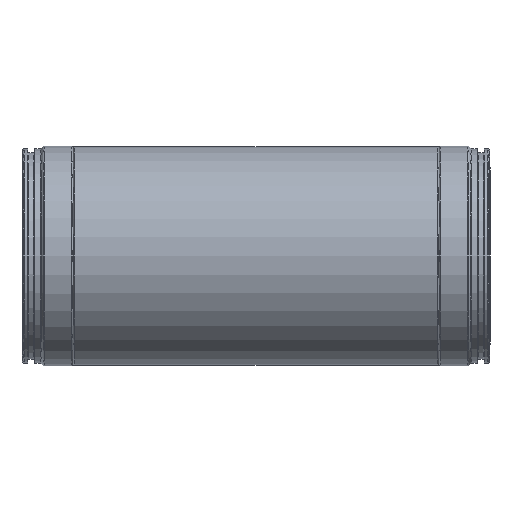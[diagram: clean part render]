
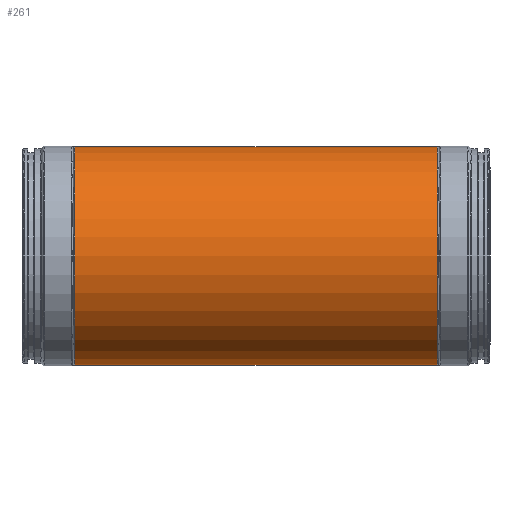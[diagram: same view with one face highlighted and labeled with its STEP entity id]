
A CAD part, left-side view. The second image highlights one B-rep face of the part: STEP entity #261.
In plain terms, the highlighted cylindrical face has radius 79.6 mm (diameter 159.2 mm), a partial arc.
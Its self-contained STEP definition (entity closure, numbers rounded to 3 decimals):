
#180=CARTESIAN_POINT('Vertex',(0.,132.,79.6)) ;
#187=CARTESIAN_POINT('Vertex',(0.,132.,-79.6)) ;
#207=CARTESIAN_POINT('Axis2P3D Location',(0.,132.,0.)) ;
#219=CARTESIAN_POINT('Axis2P3D Location',(0.,0.,0.)) ;
#224=CARTESIAN_POINT('Line Origine',(0.,0.,79.6)) ;
#228=CARTESIAN_POINT('Vertex',(0.,-132.,79.6)) ;
#235=CARTESIAN_POINT('Vertex',(0.,-132.,-79.6)) ;
#238=CARTESIAN_POINT('Line Origine',(0.,0.,-79.6)) ;
#250=CARTESIAN_POINT('Axis2P3D Location',(0.,-132.,0.)) ;
#208=DIRECTION('Axis2P3D Direction',(0.,1.,0.)) ;
#220=DIRECTION('Axis2P3D Direction',(0.,1.,0.)) ;
#221=DIRECTION('Axis2P3D XDirection',(0.,0.,1.)) ;
#225=DIRECTION('Vector Direction',(0.,1.,0.)) ;
#239=DIRECTION('Vector Direction',(0.,1.,0.)) ;
#251=DIRECTION('Axis2P3D Direction',(0.,1.,0.)) ;
#209=AXIS2_PLACEMENT_3D('Circle Axis2P3D',#207,#208,$) ;
#222=AXIS2_PLACEMENT_3D('Cylinder Axis2P3D',#219,#220,#221) ;
#252=AXIS2_PLACEMENT_3D('Circle Axis2P3D',#250,#251,$) ;
#256=ORIENTED_EDGE('',*,*,#211,.F.) ;
#257=ORIENTED_EDGE('',*,*,#242,.T.) ;
#258=ORIENTED_EDGE('',*,*,#254,.T.) ;
#259=ORIENTED_EDGE('',*,*,#230,.F.) ;
#226=VECTOR('Line Direction',#225,1.) ;
#240=VECTOR('Line Direction',#239,1.) ;
#261=ADVANCED_FACE('Corps de pi\X2\00E8\X0\ce.3',(#260),#223,.T.) ;
#210=CIRCLE('generated circle',#209,79.6) ;
#253=CIRCLE('generated circle',#252,79.6) ;
#223=CYLINDRICAL_SURFACE('generated cylinder',#222,79.6) ;
#211=EDGE_CURVE('',#188,#181,#210,.T.) ;
#230=EDGE_CURVE('',#181,#229,#227,.F.) ;
#242=EDGE_CURVE('',#188,#236,#241,.F.) ;
#254=EDGE_CURVE('',#236,#229,#253,.T.) ;
#255=EDGE_LOOP('',(#256,#257,#258,#259)) ;
#260=FACE_OUTER_BOUND('',#255,.T.) ;
#227=LINE('Line',#224,#226) ;
#241=LINE('Line',#238,#240) ;
#181=VERTEX_POINT('',#180) ;
#188=VERTEX_POINT('',#187) ;
#229=VERTEX_POINT('',#228) ;
#236=VERTEX_POINT('',#235) ;
